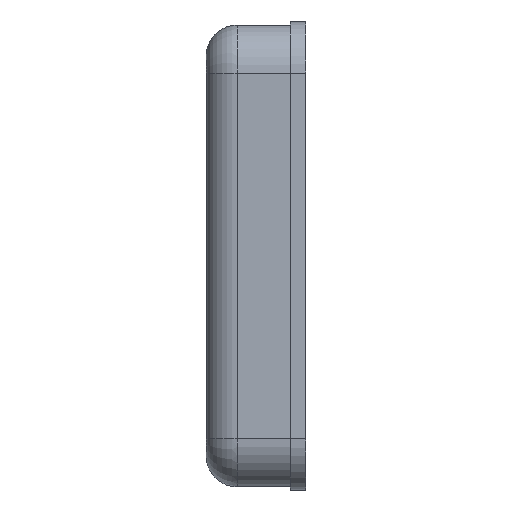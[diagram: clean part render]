
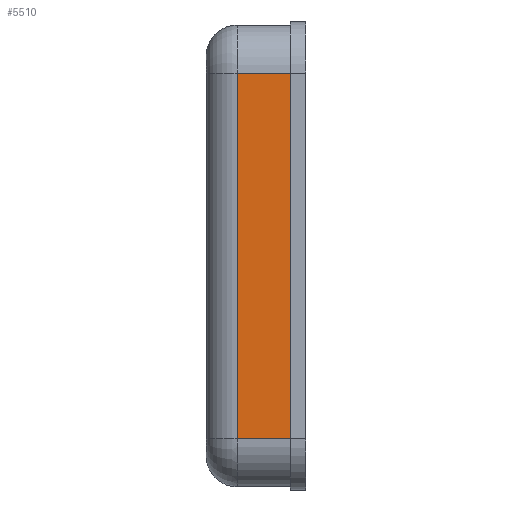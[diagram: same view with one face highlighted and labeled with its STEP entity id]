
A CAD part, left-side view. The second image highlights one B-rep face of the part: STEP entity #5510.
In plain terms, the highlighted planar face has unit normal (-1, 0, 0).
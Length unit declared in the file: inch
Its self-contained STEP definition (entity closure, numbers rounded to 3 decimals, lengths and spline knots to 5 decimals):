
#1218 = DIRECTION ( 'NONE',  ( 0., -1., 0. ) ) ;
#2433 = VECTOR ( 'NONE', #18199, 39.37008 ) ;
#3850 = CARTESIAN_POINT ( 'NONE',  ( -21.51471, 3.2125, 5.89971 ) ) ;
#5496 = EDGE_CURVE ( 'NONE', #16907, #42758, #9332, .T. ) ;
#5510 = ADVANCED_FACE ( 'NONE', ( #37705 ), #9625, .F. ) ;
#5737 = VECTOR ( 'NONE', #21310, 39.37008 ) ;
#9332 = LINE ( 'NONE', #23673, #48568 ) ;
#9625 = PLANE ( 'NONE',  #47637 ) ;
#16067 = ORIENTED_EDGE ( 'NONE', *, *, #5496, .T. ) ;
#16907 = VERTEX_POINT ( 'NONE', #40094 ) ;
#17467 = EDGE_LOOP ( 'NONE', ( #49380, #51276, #16067, #29580 ) ) ;
#18199 = DIRECTION ( 'NONE',  ( 0., -1., 0. ) ) ;
#18771 = CARTESIAN_POINT ( 'NONE',  ( -21.51471, 0.5, 5.89971 ) ) ;
#18912 = VERTEX_POINT ( 'NONE', #42176 ) ;
#21310 = DIRECTION ( 'NONE',  ( 0., 0., -1. ) ) ;
#22252 = EDGE_CURVE ( 'NONE', #18912, #29952, #32252, .T. ) ;
#23673 = CARTESIAN_POINT ( 'NONE',  ( -21.51471, 3.2125, -5.89971 ) ) ;
#27968 = EDGE_CURVE ( 'NONE', #18912, #16907, #49659, .T. ) ;
#29580 = ORIENTED_EDGE ( 'NONE', *, *, #47910, .T. ) ;
#29952 = VERTEX_POINT ( 'NONE', #18771 ) ;
#32252 = LINE ( 'NONE', #3850, #2433 ) ;
#32441 = VECTOR ( 'NONE', #56412, 39.37008 ) ;
#37705 = FACE_OUTER_BOUND ( 'NONE', #17467, .T. ) ;
#38213 = LINE ( 'NONE', #49944, #32441 ) ;
#38467 = CARTESIAN_POINT ( 'NONE',  ( -21.51471, 0.5, -5.89971 ) ) ;
#40094 = CARTESIAN_POINT ( 'NONE',  ( -21.51471, 2.2125, -5.89971 ) ) ;
#41886 = DIRECTION ( 'NONE',  ( 1., 0., 0. ) ) ;
#42176 = CARTESIAN_POINT ( 'NONE',  ( -21.51471, 2.2125, 5.89971 ) ) ;
#42758 = VERTEX_POINT ( 'NONE', #38467 ) ;
#44009 = CARTESIAN_POINT ( 'NONE',  ( -21.51471, 2.2125, -5.89971 ) ) ;
#46075 = DIRECTION ( 'NONE',  ( 0., 0., -1. ) ) ;
#47637 = AXIS2_PLACEMENT_3D ( 'NONE', #54746, #41886, #46075 ) ;
#47910 = EDGE_CURVE ( 'NONE', #42758, #29952, #38213, .T. ) ;
#48568 = VECTOR ( 'NONE', #1218, 39.37008 ) ;
#49380 = ORIENTED_EDGE ( 'NONE', *, *, #22252, .F. ) ;
#49659 = LINE ( 'NONE', #44009, #5737 ) ;
#49944 = CARTESIAN_POINT ( 'NONE',  ( -21.51471, 0.5, -5.89971 ) ) ;
#51276 = ORIENTED_EDGE ( 'NONE', *, *, #27968, .T. ) ;
#54746 = CARTESIAN_POINT ( 'NONE',  ( -21.51471, 3.2125, -5.89971 ) ) ;
#56412 = DIRECTION ( 'NONE',  ( 0., 0., 1. ) ) ;
